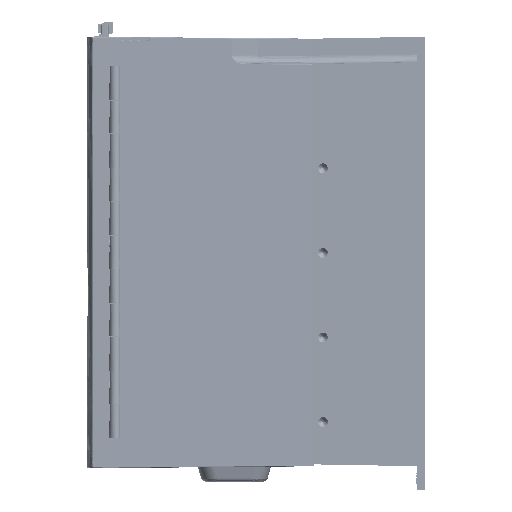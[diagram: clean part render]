
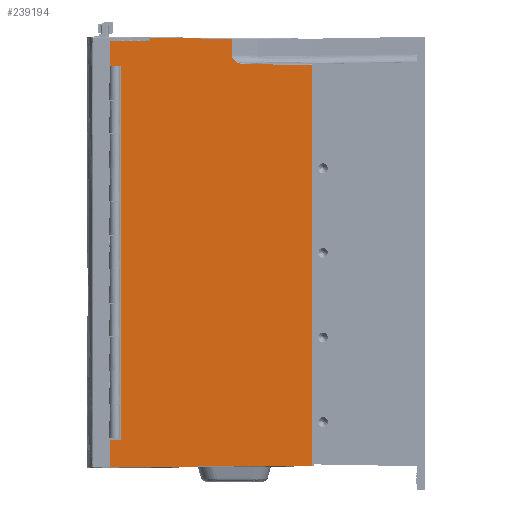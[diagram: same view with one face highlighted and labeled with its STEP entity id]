
A CAD part, left-side view. The second image highlights one B-rep face of the part: STEP entity #239194.
In plain terms, the highlighted planar face has unit normal (-1, -0.009, 0) as drawn and (1, 0, -0.009) by its records, which use the part's own axes.
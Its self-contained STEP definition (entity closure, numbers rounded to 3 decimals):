
#6830=ELLIPSE('',#250955,0.392,0.275);
#15428=LINE('',#333356,#45372);
#15429=LINE('',#333358,#45373);
#15430=LINE('',#333360,#45374);
#15431=LINE('',#333362,#45375);
#15432=LINE('',#333364,#45376);
#15433=LINE('',#333366,#45377);
#15434=LINE('',#333368,#45378);
#15435=LINE('',#333370,#45379);
#15436=LINE('',#333372,#45380);
#15437=LINE('',#333374,#45381);
#15438=LINE('',#333376,#45382);
#15439=LINE('',#333378,#45383);
#15440=LINE('',#333380,#45384);
#15441=LINE('',#333382,#45385);
#15442=LINE('',#333384,#45386);
#15443=LINE('',#333386,#45387);
#15444=LINE('',#333388,#45388);
#15445=LINE('',#333390,#45389);
#15446=LINE('',#333392,#45390);
#15447=LINE('',#333394,#45391);
#15448=LINE('',#333398,#45392);
#15449=LINE('',#333399,#45393);
#45372=VECTOR('',#269339,0.394);
#45373=VECTOR('',#269340,0.394);
#45374=VECTOR('',#269341,0.394);
#45375=VECTOR('',#269342,0.394);
#45376=VECTOR('',#269343,0.394);
#45377=VECTOR('',#269344,0.394);
#45378=VECTOR('',#269345,0.394);
#45379=VECTOR('',#269346,0.394);
#45380=VECTOR('',#269347,0.394);
#45381=VECTOR('',#269348,0.394);
#45382=VECTOR('',#269349,0.394);
#45383=VECTOR('',#269350,0.394);
#45384=VECTOR('',#269351,0.394);
#45385=VECTOR('',#269352,0.394);
#45386=VECTOR('',#269353,0.394);
#45387=VECTOR('',#269354,0.394);
#45388=VECTOR('',#269355,0.394);
#45389=VECTOR('',#269356,0.394);
#45390=VECTOR('',#269357,0.394);
#45391=VECTOR('',#269358,0.394);
#45392=VECTOR('',#269361,0.394);
#45393=VECTOR('',#269362,0.394);
#74527=PLANE('',#250954);
#87237=FACE_OUTER_BOUND('',#98123,.T.);
#98123=EDGE_LOOP('',(#184095,#184096,#184097,#184098,#184099,#184100,#184101,
#184102,#184103,#184104,#184105,#184106,#184107,#184108,#184109,#184110,
#184111,#184112,#184113,#184114,#184115,#184116,#184117));
#115083=VERTEX_POINT('',#333354);
#115084=VERTEX_POINT('',#333355);
#115085=VERTEX_POINT('',#333357);
#115086=VERTEX_POINT('',#333359);
#115087=VERTEX_POINT('',#333361);
#115088=VERTEX_POINT('',#333363);
#115089=VERTEX_POINT('',#333365);
#115090=VERTEX_POINT('',#333367);
#115091=VERTEX_POINT('',#333369);
#115092=VERTEX_POINT('',#333371);
#115093=VERTEX_POINT('',#333373);
#115094=VERTEX_POINT('',#333375);
#115095=VERTEX_POINT('',#333377);
#115096=VERTEX_POINT('',#333379);
#115097=VERTEX_POINT('',#333381);
#115098=VERTEX_POINT('',#333383);
#115099=VERTEX_POINT('',#333385);
#115100=VERTEX_POINT('',#333387);
#115101=VERTEX_POINT('',#333389);
#115102=VERTEX_POINT('',#333391);
#115103=VERTEX_POINT('',#333393);
#115104=VERTEX_POINT('',#333395);
#115105=VERTEX_POINT('',#333397);
#145637=EDGE_CURVE('',#115083,#115084,#15428,.T.);
#145638=EDGE_CURVE('',#115084,#115085,#15429,.F.);
#145639=EDGE_CURVE('',#115085,#115086,#15430,.T.);
#145640=EDGE_CURVE('',#115086,#115087,#15431,.T.);
#145641=EDGE_CURVE('',#115087,#115088,#15432,.T.);
#145642=EDGE_CURVE('',#115088,#115089,#15433,.T.);
#145643=EDGE_CURVE('',#115089,#115090,#15434,.T.);
#145644=EDGE_CURVE('',#115090,#115091,#15435,.T.);
#145645=EDGE_CURVE('',#115091,#115092,#15436,.T.);
#145646=EDGE_CURVE('',#115092,#115093,#15437,.T.);
#145647=EDGE_CURVE('',#115093,#115094,#15438,.T.);
#145648=EDGE_CURVE('',#115094,#115095,#15439,.T.);
#145649=EDGE_CURVE('',#115095,#115096,#15440,.T.);
#145650=EDGE_CURVE('',#115096,#115097,#15441,.T.);
#145651=EDGE_CURVE('',#115097,#115098,#15442,.T.);
#145652=EDGE_CURVE('',#115098,#115099,#15443,.T.);
#145653=EDGE_CURVE('',#115099,#115100,#15444,.T.);
#145654=EDGE_CURVE('',#115101,#115100,#15445,.T.);
#145655=EDGE_CURVE('',#115101,#115102,#15446,.T.);
#145656=EDGE_CURVE('',#115103,#115102,#15447,.T.);
#145657=EDGE_CURVE('',#115104,#115103,#6830,.T.);
#145658=EDGE_CURVE('',#115105,#115104,#15448,.T.);
#145659=EDGE_CURVE('',#115083,#115105,#15449,.T.);
#184095=ORIENTED_EDGE('',*,*,#145637,.T.);
#184096=ORIENTED_EDGE('',*,*,#145638,.T.);
#184097=ORIENTED_EDGE('',*,*,#145639,.T.);
#184098=ORIENTED_EDGE('',*,*,#145640,.T.);
#184099=ORIENTED_EDGE('',*,*,#145641,.T.);
#184100=ORIENTED_EDGE('',*,*,#145642,.T.);
#184101=ORIENTED_EDGE('',*,*,#145643,.T.);
#184102=ORIENTED_EDGE('',*,*,#145644,.T.);
#184103=ORIENTED_EDGE('',*,*,#145645,.T.);
#184104=ORIENTED_EDGE('',*,*,#145646,.T.);
#184105=ORIENTED_EDGE('',*,*,#145647,.T.);
#184106=ORIENTED_EDGE('',*,*,#145648,.T.);
#184107=ORIENTED_EDGE('',*,*,#145649,.T.);
#184108=ORIENTED_EDGE('',*,*,#145650,.T.);
#184109=ORIENTED_EDGE('',*,*,#145651,.T.);
#184110=ORIENTED_EDGE('',*,*,#145652,.T.);
#184111=ORIENTED_EDGE('',*,*,#145653,.T.);
#184112=ORIENTED_EDGE('',*,*,#145654,.F.);
#184113=ORIENTED_EDGE('',*,*,#145655,.T.);
#184114=ORIENTED_EDGE('',*,*,#145656,.F.);
#184115=ORIENTED_EDGE('',*,*,#145657,.F.);
#184116=ORIENTED_EDGE('',*,*,#145658,.F.);
#184117=ORIENTED_EDGE('',*,*,#145659,.F.);
#239194=ADVANCED_FACE('',(#87237),#74527,.T.);
#250954=AXIS2_PLACEMENT_3D('',#333353,#269337,#269338);
#250955=AXIS2_PLACEMENT_3D('',#333396,#269359,#269360);
#269337=DIRECTION('center_axis',(1.,0.,
-0.009));
#269338=DIRECTION('ref_axis',(0.,1.,0.));
#269339=DIRECTION('',(0.,-1.,0.));
#269340=DIRECTION('',(-0.009,0.009,-1.));
#269341=DIRECTION('',(0.,-1.,0.));
#269342=DIRECTION('',(-0.009,0.,-1.));
#269343=DIRECTION('',(0.,-1.,0.));
#269344=DIRECTION('',(0.,-1.,0.));
#269345=DIRECTION('',(0.,-1.,0.));
#269346=DIRECTION('',(0.,-1.,0.));
#269347=DIRECTION('',(0.,-1.,0.));
#269348=DIRECTION('',(0.,-1.,0.));
#269349=DIRECTION('',(0.,-1.,0.));
#269350=DIRECTION('',(0.,-1.,0.));
#269351=DIRECTION('',(0.,-1.,0.));
#269352=DIRECTION('',(0.,-1.,0.));
#269353=DIRECTION('',(0.,-1.,0.));
#269354=DIRECTION('',(0.009,0.,1.));
#269355=DIRECTION('',(0.,-1.,0.));
#269356=DIRECTION('',(0.009,-0.009,1.));
#269357=DIRECTION('',(0.,1.,0.));
#269358=DIRECTION('',(-0.009,-0.009,-1.));
#269359=DIRECTION('center_axis',(1.,0.,
-0.009));
#269360=DIRECTION('ref_axis',(0.009,0.009,1.));
#269361=DIRECTION('',(0.,-1.,0.));
#269362=DIRECTION('',(-0.009,-0.009,-1.));
#333353=CARTESIAN_POINT('Origin',(0.,12.643,0.));
#333354=CARTESIAN_POINT('',(0.042,12.661,4.87));
#333355=CARTESIAN_POINT('',(0.042,12.585,4.87));
#333356=CARTESIAN_POINT('',(0.042,12.666,4.87));
#333357=CARTESIAN_POINT('',(0.053,12.575,6.05));
#333358=CARTESIAN_POINT('',(0.024,12.604,2.789));
#333359=CARTESIAN_POINT('',(0.053,11.84,6.05));
#333360=CARTESIAN_POINT('',(0.053,0.,6.05));
#333361=CARTESIAN_POINT('',(0.05,11.84,5.714));
#333362=CARTESIAN_POINT('',(0.025,11.84,2.841));
#333363=CARTESIAN_POINT('',(0.05,10.815,5.714));
#333364=CARTESIAN_POINT('',(0.05,6.716,5.714));
#333365=CARTESIAN_POINT('',(0.05,9.845,5.714));
#333366=CARTESIAN_POINT('',(0.05,6.716,5.714));
#333367=CARTESIAN_POINT('',(0.05,8.815,5.714));
#333368=CARTESIAN_POINT('',(0.05,6.716,5.714));
#333369=CARTESIAN_POINT('',(0.05,7.845,5.714));
#333370=CARTESIAN_POINT('',(0.05,6.716,5.714));
#333371=CARTESIAN_POINT('',(0.05,6.815,5.714));
#333372=CARTESIAN_POINT('',(0.05,6.716,5.714));
#333373=CARTESIAN_POINT('',(0.05,5.845,5.714));
#333374=CARTESIAN_POINT('',(0.05,6.716,5.714));
#333375=CARTESIAN_POINT('',(0.05,4.815,5.714));
#333376=CARTESIAN_POINT('',(0.05,6.716,5.714));
#333377=CARTESIAN_POINT('',(0.05,3.845,5.714));
#333378=CARTESIAN_POINT('',(0.05,6.716,5.714));
#333379=CARTESIAN_POINT('',(0.05,2.815,5.714));
#333380=CARTESIAN_POINT('',(0.05,6.716,5.714));
#333381=CARTESIAN_POINT('',(0.05,1.845,5.714));
#333382=CARTESIAN_POINT('',(0.05,6.716,5.714));
#333383=CARTESIAN_POINT('',(0.05,0.79,5.714));
#333384=CARTESIAN_POINT('',(0.05,6.716,5.714));
#333385=CARTESIAN_POINT('',(0.053,0.79,6.05));
#333386=CARTESIAN_POINT('',(0.026,0.79,3.009));
#333387=CARTESIAN_POINT('',(0.053,-0.028,6.05));
#333388=CARTESIAN_POINT('',(0.053,0.,6.05));
#333389=CARTESIAN_POINT('',(0.001,0.024,0.065));
#333390=CARTESIAN_POINT('',(0.,0.025,-0.055));
#333391=CARTESIAN_POINT('',(0.001,11.868,0.065));
#333392=CARTESIAN_POINT('',(0.001,12.498,0.065));
#333393=CARTESIAN_POINT('',(0.018,11.886,2.05));
#333394=CARTESIAN_POINT('',(0.,11.868,0.003));
#333395=CARTESIAN_POINT('',(0.021,12.162,2.44));
#333396=CARTESIAN_POINT('Origin',(0.018,12.161,2.048));
#333397=CARTESIAN_POINT('',(0.021,12.639,2.44));
#333398=CARTESIAN_POINT('',(0.021,12.666,2.44));
#333399=CARTESIAN_POINT('',(0.,12.618,-0.031));
